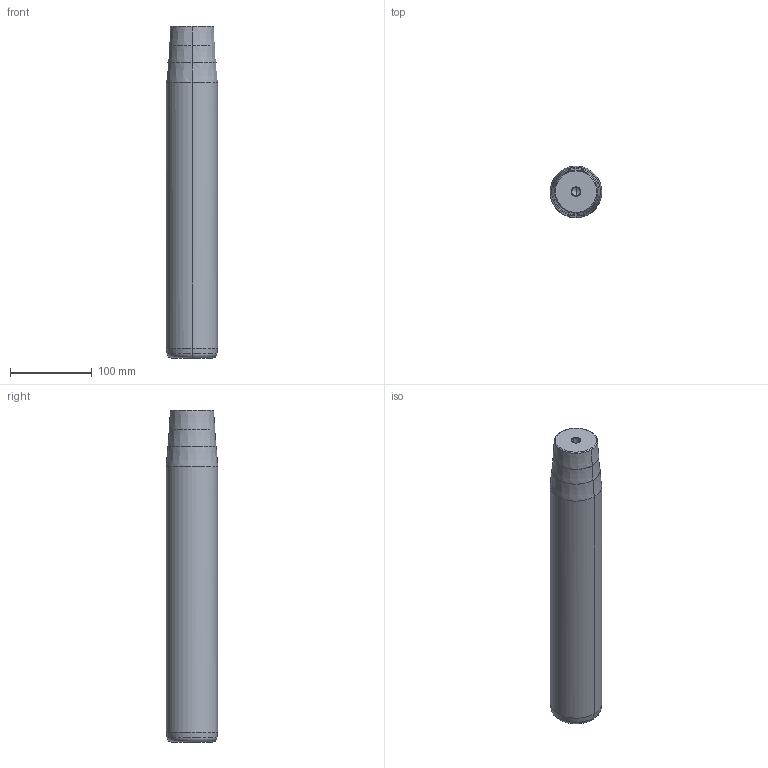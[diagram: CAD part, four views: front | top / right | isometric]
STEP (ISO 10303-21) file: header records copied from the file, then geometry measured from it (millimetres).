
FILE_DESCRIPTION(('CATIA V5 STEP Exchange'),'2;1');
FILE_NAME('C:\Users\Utente\Desktop\IO LAVORO\3D X SITO CF\X SITO\722\722-63x355x406.stp','2021-01-07T19:20:19+00:00',('none'),('none'),'CATIA Version 5 Release 20 GA (IN-10)','CATIA V5 STEP AP203','none');
FILE_SCHEMA(('CONFIG_CONTROL_DESIGN'));
Length unit declared in the file: millimetre
Products named in the file (1): 722-63x355x406
Bounding box: 63 x 63 x 406 mm (x, y, z)
Volume: 1223812.5 mm3; surface area: 85604 mm2
Topology: 1 solids, 1 shells, 32 faces, 98 edges, 66 vertices
Faces by surface type: cone 22, cylinder 6, plane 2, torus 2
Entity records: 1172 total; most frequent: CARTESIAN_POINT 285, ORIENTED_EDGE 188, DIRECTION 148, EDGE_CURVE 94, AXIS2_PLACEMENT_3D 89, VERTEX_POINT 66, CIRCLE 56, EDGE_LOOP 34
